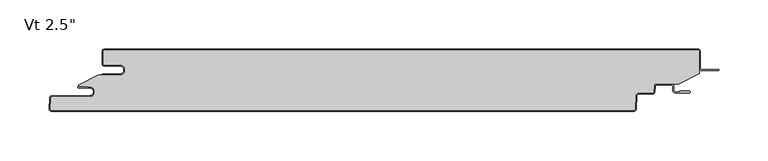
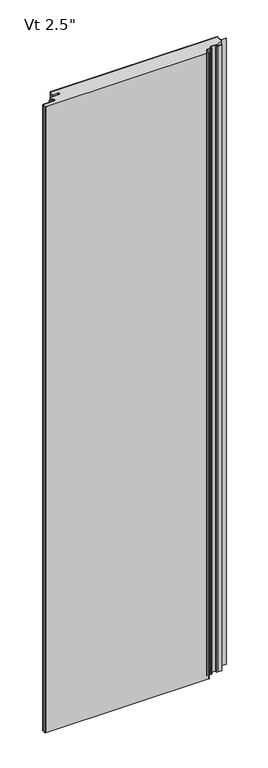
"""IFC4 building model written with IfcOpenShell, lengths in millimetres: plate geometry."""

from ifc_helpers import new_model, si_unit, point, frame, frame_2d, origin, origin_with_axes, place, context, project, spatial, polyline, circle_curve, ellipse_curve, trimmed, segment, composite_curve, outline, extrude, source, transform, mapped, element, save
from ifc_brep_helpers import plane_surface, cylinder_surface, revolved_surface, extruded_surface, advanced_brep


def plate_2abe45d6(model_context):
    return source(origin(), model_context, "Body", "SolidModel", [
        extrude(outline(composite_curve([segment(polyline([(-285.74375, -16.4625), (-301.61875, -16.4625)]), True, "CONTINUOUS"), segment(trimmed(circle_curve(frame_2d((-301.61875, -15.08125)), 1.38125), [point((-301.61875, -16.4625))], [point((-303.0, -15.08125))], False, "CARTESIAN"), True, "CONTINUOUS"), segment(polyline([(-303.0, -15.08125), (-303.0, -2.38125)]), True, "CONTINUOUS"), segment(trimmed(circle_curve(frame_2d((-301.61875, -2.38125)), 1.38125), [point((-303.0, -2.38125))], [point((-301.61875, -1.0))], False, "CARTESIAN"), True, "CONTINUOUS"), segment(polyline([(-301.61875, -1.0), (301.63125, -1.0)]), True, "CONTINUOUS"), segment(trimmed(circle_curve(frame_2d((301.63125, -2.38125)), 1.38125), [point((301.63125, -1.0))], [point((303.0125, -2.38125))], False, "CARTESIAN"), True, "CONTINUOUS"), segment(polyline([(303.0125, -2.38125), (303.0125, -24.9057308), (282.1955434, -35.5125), (259.7540783, -35.5125)]), True, "CONTINUOUS"), segment(trimmed(circle_curve(frame_2d((259.7540783, -38.1)), 2.5875), [point((259.7540783, -35.5125))], [point((257.1701244, -37.9645807))], True, "CARTESIAN"), True, "CONTINUOUS"), segment(polyline([(257.1701244, -37.9645807), (256.8680481, -43.728539)]), True, "CONTINUOUS"), segment(trimmed(circle_curve(frame_2d((255.4886911, -43.65625)), 1.38125), [point((256.8680481, -43.728539))], [point((255.4886911, -45.0375))], False, "CARTESIAN"), True, "CONTINUOUS"), segment(polyline([(255.4886911, -45.0375), (241.3323847, -45.0375)]), True, "CONTINUOUS"), segment(trimmed(circle_curve(frame_2d((241.3323847, -47.625)), 2.5875), [point((241.3323847, -45.0375))], [point((238.7484307, -47.4895807))], True, "CARTESIAN"), True, "CONTINUOUS"), segment(polyline([(238.7484307, -47.4895807), (238.0303677, -61.191039)]), True, "CONTINUOUS"), segment(trimmed(circle_curve(frame_2d((236.6510107, -61.11875)), 1.38125), [point((238.0303677, -61.191039))], [point((236.6510107, -62.5))], False, "CARTESIAN"), True, "CONTINUOUS"), segment(polyline([(236.6510107, -62.5), (-355.4799535, -62.5)]), True, "CONTINUOUS"), segment(trimmed(circle_curve(frame_2d((-355.4799535, -61.11875)), 1.38125), [point((-355.4799535, -62.5))], [point((-356.8593106, -61.046461))], False, "CARTESIAN"), True, "CONTINUOUS"), segment(polyline([(-356.8593106, -61.046461), (-356.2769291, -49.933961)]), True, "CONTINUOUS"), segment(trimmed(circle_curve(frame_2d((-354.8975721, -50.00625)), 1.38125), [point((-356.2769291, -49.933961))], [point((-354.8975721, -48.625))], False, "CARTESIAN"), True, "CONTINUOUS"), segment(polyline([(-354.8975721, -48.625), (-316.7142674, -48.625)]), True, "CONTINUOUS"), segment(trimmed(circle_curve(frame_2d((-316.7142674, -43.65625)), 4.96875), [point((-316.7142674, -48.625))], [point((-316.7142674, -38.6875))], True, "CARTESIAN"), True, "CONTINUOUS"), segment(polyline([(-316.7142674, -38.6875), (-318.3017674, -38.89375), (-318.3017674, -38.1), (-327.8125, -38.1), (-327.8125, -36.5326309), (-307.9260922, -26.4), (-285.74375, -26.4)]), True, "CONTINUOUS"), segment(trimmed(circle_curve(frame_2d((-285.74375, -21.43125)), 4.96875), [point((-285.74375, -26.4))], [point((-285.74375, -16.4625))], True, "CARTESIAN"), True, "CONTINUOUS")], self_intersect=False)), origin_with_axes(), (0.0, 0.0, 1.0), 2400.0),
        extrude(outline(composite_curve([segment(polyline([(-304.0, -25.4), (-285.74375, -25.4)]), True, "CONTINUOUS"), segment(trimmed(circle_curve(frame_2d((-285.74375, -21.43125)), 3.96875), [point((-285.74375, -25.4))], [point((-285.74375, -17.4625))], True, "CARTESIAN"), True, "CONTINUOUS"), segment(polyline([(-285.74375, -17.4625), (-301.61875, -17.4625)]), True, "CONTINUOUS"), segment(trimmed(circle_curve(frame_2d((-301.61875, -15.08125)), 2.38125), [point((-301.61875, -17.4625))], [point((-304.0, -15.08125))], False, "CARTESIAN"), True, "CONTINUOUS"), segment(polyline([(-304.0, -15.08125), (-304.0, -2.38125)]), True, "CONTINUOUS"), segment(trimmed(circle_curve(frame_2d((-301.61875, -2.38125)), 2.38125), [point((-304.0, -2.38125))], [point((-301.61875, 0.0))], False, "CARTESIAN"), True, "CONTINUOUS"), segment(polyline([(-301.61875, 0.0), (301.63125, 0.0)]), True, "CONTINUOUS"), segment(trimmed(circle_curve(frame_2d((301.63125, -2.38125)), 2.38125), [point((301.63125, 0.0))], [point((304.0125, -2.38125))], False, "CARTESIAN"), True, "CONTINUOUS"), segment(polyline([(304.0125, -2.38125), (304.0125, -19.446875)]), True, "CONTINUOUS"), segment(trimmed(circle_curve(frame_2d((305.6, -19.446875)), 1.5875), [point((304.0125, -19.446875))], [point((305.6, -21.034375))], True, "CARTESIAN"), True, "CONTINUOUS"), segment(polyline([(305.6, -21.034375), (323.0625, -21.034375), (323.0625, -22.034375), (305.6, -22.034375)]), True, "CONTINUOUS"), segment(trimmed(circle_curve(frame_2d((305.6, -19.446875)), 2.5875), [point((305.6, -22.034375))], [point((303.0125, -19.446875))], False, "CARTESIAN"), True, "CONTINUOUS"), segment(polyline([(303.0125, -19.446875), (303.0125, -2.38125)]), True, "CONTINUOUS"), segment(trimmed(circle_curve(frame_2d((301.63125, -2.38125)), 1.38125), [point((303.0125, -2.38125))], [point((301.63125, -1.0))], True, "CARTESIAN"), True, "CONTINUOUS"), segment(polyline([(301.63125, -1.0), (-301.61875, -1.0)]), True, "CONTINUOUS"), segment(trimmed(circle_curve(frame_2d((-301.61875, -2.38125)), 1.38125), [point((-301.61875, -1.0))], [point((-303.0, -2.38125))], True, "CARTESIAN"), True, "CONTINUOUS"), segment(polyline([(-303.0, -2.38125), (-303.0, -15.08125)]), True, "CONTINUOUS"), segment(trimmed(circle_curve(frame_2d((-301.61875, -15.08125)), 1.38125), [point((-303.0, -15.08125))], [point((-301.61875, -16.4625))], True, "CARTESIAN"), True, "CONTINUOUS"), segment(polyline([(-301.61875, -16.4625), (-285.74375, -16.4625)]), True, "CONTINUOUS"), segment(trimmed(circle_curve(frame_2d((-285.74375, -21.43125)), 4.96875), [point((-285.74375, -16.4625))], [point((-285.74375, -26.4))], False, "CARTESIAN"), True, "CONTINUOUS"), segment(polyline([(-285.74375, -26.4), (-304.0, -26.4), (-304.0, -25.4)]), True, "CONTINUOUS")], self_intersect=False)), origin_with_axes(), (0.0, 0.0, 1.0), 2400.0),
        advanced_brep(
        [(-328.0252049, -38.1, 2400.0), (-328.0252049, -39.6875, 2400.0), (-316.7142674, -39.6875, 2400.0), (-316.7142674, -47.625, 2400.0), (-354.8975721, -47.625, 2400.0), (-357.2755586, -49.881625, 2400.0), (-357.8579401, -60.994125, 2400.0), (-355.4799535, -63.5, 2400.0), (236.6510107, -63.5, 2400.0), (239.0289973, -61.243375, 2400.0), (239.7470603, -47.5419167, 2400.0), (241.3323847, -46.0375, 2400.0), (255.4886911, -46.0375, 2400.0), (257.8666776, -43.780875, 2400.0), (258.1687539, -38.0169167, 2400.0), (259.7540783, -36.5125, 2400.0), (274.6294826, -36.5125, 2400.0), (276.2169826, -38.1, 2400.0), (276.2169826, -42.2671875, 2400.0), (278.5982326, -44.6484375, 2400.0), (293.0898532, -44.6484375, 2400.0), (293.0898532, -42.8546875, 2400.0), (283.3607326, -42.8546875, 2400.0), (283.3607326, -43.6484375, 2400.0), (278.5982326, -43.6484375, 2400.0), (277.2169826, -42.2671875, 2400.0), (277.2169826, -38.1, 2400.0), (274.6294826, -35.5125, 2400.0), (259.7540783, -35.5125, 2400.0), (257.1701244, -37.9645807, 2400.0), (256.8680481, -43.728539, 2400.0), (255.4886911, -45.0375, 2400.0), (241.3323847, -45.0375, 2400.0), (238.7484307, -47.4895807, 2400.0), (238.0303677, -61.191039, 2400.0), (236.6510107, -62.5, 2400.0), (-355.4799535, -62.5, 2400.0), (-356.8593106, -61.046461, 2400.0), (-356.2769291, -49.933961, 2400.0), (-354.8975721, -48.625, 2400.0), (-316.7142674, -48.625, 2400.0), (-316.7142674, -38.6875, 2400.0), (-318.3017674, -38.89375, 2400.0), (-318.3017674, -38.1, 2400.0), (-328.0252049, -38.1, 0.0), (-318.3017674, -38.1, 0.0), (-318.3017674, -38.89375, 0.0), (-316.7142674, -38.6875, 0.0), (-316.7142674, -48.625, 0.0), (-354.8975721, -48.625, 0.0), (-356.2769291, -49.933961, 0.0), (-356.8593106, -61.046461, 0.0), (-355.4799535, -62.5, 0.0), (236.6510107, -62.5, 0.0), (238.0303677, -61.191039, 0.0), (238.7484307, -47.4895807, 0.0), (241.3323847, -45.0375, 0.0), (255.4886911, -45.0375, 0.0), (256.8680481, -43.728539, 0.0), (257.1701244, -37.9645807, 0.0), (259.7540783, -35.5125, 0.0), (274.6294826, -35.5125, 0.0), (277.2169826, -38.1, 0.0), (277.2169826, -42.2671875, 0.0), (278.5982326, -43.6484375, 0.0), (283.3607326, -43.6484375, 0.0), (283.3607326, -42.8546875, 0.0), (293.0898532, -42.8546875, 0.0), (293.0898532, -44.6484375, 0.0), (278.5982326, -44.6484375, 0.0), (276.2169826, -42.2671875, 0.0), (276.2169826, -38.1, 0.0), (274.6294826, -36.5125, 0.0), (259.7540783, -36.5125, 0.0), (258.1687539, -38.0169167, 0.0), (257.8666776, -43.780875, 0.0), (255.4886911, -46.0375, 0.0), (241.3323847, -46.0375, 0.0), (239.7470603, -47.5419167, 0.0), (239.0289973, -61.243375, 0.0), (236.6510107, -63.5, 0.0), (-355.4799535, -63.5, 0.0), (-357.8579401, -60.994125, 0.0), (-357.2755586, -49.881625, 0.0), (-354.8975721, -47.625, 0.0), (-316.7142674, -47.625, 0.0), (-316.7142674, -39.6875, 0.0), (-328.0252049, -39.6875, 0.0)],
        [
            (0, 1, circle_curve(frame((-328.0252049, -38.89375, 2400.0), z_axis=(0.0, 0.0, 1.0), x_axis=(1.0, 0.0, 0.0)), 0.79375)),
            (1, 2),
            (2, 3, circle_curve(frame((-316.7142674, -43.65625, 2400.0), z_axis=(0.0, 0.0, -1.0), x_axis=(1.0, 0.0, 0.0)), 3.96875)),
            (3, 4),
            (4, 5, circle_curve(frame((-354.8975721, -50.00625, 2400.0), z_axis=(0.0, 0.0, 1.0), x_axis=(1.0, 0.0, 0.0)), 2.38125)),
            (5, 6),
            (6, 7, circle_curve(frame((-355.4799535, -61.11875, 2400.0), z_axis=(0.0, 0.0, 1.0), x_axis=(1.0, 0.0, 0.0)), 2.38125)),
            (7, 8),
            (8, 9, circle_curve(frame((236.6510107, -61.11875, 2400.0), z_axis=(0.0, 0.0, 1.0), x_axis=(1.0, 0.0, 0.0)), 2.38125)),
            (9, 10),
            (10, 11, circle_curve(frame((241.3323847, -47.625, 2400.0), z_axis=(0.0, 0.0, -1.0), x_axis=(1.0, 0.0, 0.0)), 1.5875)),
            (11, 12),
            (12, 13, circle_curve(frame((255.4886911, -43.65625, 2400.0), z_axis=(0.0, 0.0, 1.0), x_axis=(1.0, 0.0, 0.0)), 2.38125)),
            (13, 14),
            (14, 15, circle_curve(frame((259.7540783, -38.1, 2400.0), z_axis=(0.0, 0.0, -1.0), x_axis=(1.0, 0.0, 0.0)), 1.5875)),
            (15, 16),
            (16, 17, circle_curve(frame((274.6294826, -38.1, 2400.0), z_axis=(0.0, 0.0, -1.0), x_axis=(1.0, 0.0, 0.0)), 1.5875)),
            (17, 18),
            (18, 19, circle_curve(frame((278.5982326, -42.2671875, 2400.0), z_axis=(0.0, 0.0, 1.0), x_axis=(1.0, 0.0, 0.0)), 2.38125)),
            (19, 20),
            (20, 21, ellipse_curve(frame((293.0898532, -43.7515625, 2400.0), z_axis=(0.0, 0.0, 1.0), x_axis=(0.0, 1.0, 0.0)), 0.896875, 0.7852275)),
            (21, 22),
            (22, 23),
            (23, 24),
            (24, 25, circle_curve(frame((278.5982326, -42.2671875, 2400.0), z_axis=(0.0, 0.0, -1.0), x_axis=(1.0, 0.0, 0.0)), 1.38125)),
            (25, 26),
            (26, 27, circle_curve(frame((274.6294826, -38.1, 2400.0), z_axis=(0.0, 0.0, 1.0), x_axis=(1.0, 0.0, 0.0)), 2.5875)),
            (27, 28),
            (28, 29, circle_curve(frame((259.7540783, -38.1, 2400.0), z_axis=(0.0, 0.0, 1.0), x_axis=(1.0, 0.0, 0.0)), 2.5875)),
            (29, 30),
            (30, 31, circle_curve(frame((255.4886911, -43.65625, 2400.0), z_axis=(0.0, 0.0, -1.0), x_axis=(1.0, 0.0, 0.0)), 1.38125)),
            (31, 32),
            (32, 33, circle_curve(frame((241.3323847, -47.625, 2400.0), z_axis=(0.0, 0.0, 1.0), x_axis=(1.0, 0.0, 0.0)), 2.5875)),
            (33, 34),
            (34, 35, circle_curve(frame((236.6510107, -61.11875, 2400.0), z_axis=(0.0, 0.0, -1.0), x_axis=(1.0, 0.0, 0.0)), 1.38125)),
            (35, 36),
            (36, 37, circle_curve(frame((-355.4799535, -61.11875, 2400.0), z_axis=(0.0, 0.0, -1.0), x_axis=(1.0, 0.0, 0.0)), 1.38125)),
            (37, 38),
            (38, 39, circle_curve(frame((-354.8975721, -50.00625, 2400.0), z_axis=(0.0, 0.0, -1.0), x_axis=(1.0, 0.0, 0.0)), 1.38125)),
            (39, 40),
            (40, 41, circle_curve(frame((-316.7142674, -43.65625, 2400.0), z_axis=(0.0, 0.0, 1.0), x_axis=(1.0, 0.0, 0.0)), 4.96875)),
            (41, 42),
            (42, 43),
            (43, 0),
            (44, 45),
            (45, 46),
            (46, 47),
            (47, 48, circle_curve(frame((-316.7142674, -43.65625, 0.0), z_axis=(0.0, 0.0, -1.0), x_axis=(1.0, 0.0, 0.0)), 4.96875)),
            (48, 49),
            (49, 50, circle_curve(frame((-354.8975721, -50.00625, 0.0), z_axis=(0.0, 0.0, 1.0), x_axis=(1.0, 0.0, 0.0)), 1.38125)),
            (50, 51),
            (51, 52, circle_curve(frame((-355.4799535, -61.11875, 0.0), z_axis=(0.0, 0.0, 1.0), x_axis=(1.0, 0.0, 0.0)), 1.38125)),
            (52, 53),
            (53, 54, circle_curve(frame((236.6510107, -61.11875, 0.0), z_axis=(0.0, 0.0, 1.0), x_axis=(1.0, 0.0, 0.0)), 1.38125)),
            (54, 55),
            (55, 56, circle_curve(frame((241.3323847, -47.625, 0.0), z_axis=(0.0, 0.0, -1.0), x_axis=(1.0, 0.0, 0.0)), 2.5875)),
            (56, 57),
            (57, 58, circle_curve(frame((255.4886911, -43.65625, 0.0), z_axis=(0.0, 0.0, 1.0), x_axis=(1.0, 0.0, 0.0)), 1.38125)),
            (58, 59),
            (59, 60, circle_curve(frame((259.7540783, -38.1, 0.0), z_axis=(0.0, 0.0, -1.0), x_axis=(1.0, 0.0, 0.0)), 2.5875)),
            (60, 61),
            (61, 62, circle_curve(frame((274.6294826, -38.1, 0.0), z_axis=(0.0, 0.0, -1.0), x_axis=(1.0, 0.0, 0.0)), 2.5875)),
            (62, 63),
            (63, 64, circle_curve(frame((278.5982326, -42.2671875, 0.0), z_axis=(0.0, 0.0, 1.0), x_axis=(1.0, 0.0, 0.0)), 1.38125)),
            (64, 65),
            (65, 66),
            (66, 67),
            (67, 68, ellipse_curve(frame((293.0898532, -43.7515625, 0.0), z_axis=(0.0, 0.0, -1.0), x_axis=(0.0, 1.0, 0.0)), 0.896875, 0.7852275)),
            (68, 69),
            (69, 70, circle_curve(frame((278.5982326, -42.2671875, 0.0), z_axis=(0.0, 0.0, -1.0), x_axis=(1.0, 0.0, 0.0)), 2.38125)),
            (70, 71),
            (71, 72, circle_curve(frame((274.6294826, -38.1, 0.0), z_axis=(0.0, 0.0, 1.0), x_axis=(1.0, 0.0, 0.0)), 1.5875)),
            (72, 73),
            (73, 74, circle_curve(frame((259.7540783, -38.1, 0.0), z_axis=(0.0, 0.0, 1.0), x_axis=(1.0, 0.0, 0.0)), 1.5875)),
            (74, 75),
            (75, 76, circle_curve(frame((255.4886911, -43.65625, 0.0), z_axis=(0.0, 0.0, -1.0), x_axis=(1.0, 0.0, 0.0)), 2.38125)),
            (76, 77),
            (77, 78, circle_curve(frame((241.3323847, -47.625, 0.0), z_axis=(0.0, 0.0, 1.0), x_axis=(1.0, 0.0, 0.0)), 1.5875)),
            (78, 79),
            (79, 80, circle_curve(frame((236.6510107, -61.11875, 0.0), z_axis=(0.0, 0.0, -1.0), x_axis=(1.0, 0.0, 0.0)), 2.38125)),
            (80, 81),
            (81, 82, circle_curve(frame((-355.4799535, -61.11875, 0.0), z_axis=(0.0, 0.0, -1.0), x_axis=(1.0, 0.0, 0.0)), 2.38125)),
            (82, 83),
            (83, 84, circle_curve(frame((-354.8975721, -50.00625, 0.0), z_axis=(0.0, 0.0, -1.0), x_axis=(1.0, 0.0, 0.0)), 2.38125)),
            (84, 85),
            (85, 86, circle_curve(frame((-316.7142674, -43.65625, 0.0), z_axis=(0.0, 0.0, 1.0), x_axis=(1.0, 0.0, 0.0)), 3.96875)),
            (86, 87),
            (87, 44, circle_curve(frame((-328.0252049, -38.89375, 0.0), z_axis=(0.0, 0.0, -1.0), x_axis=(1.0, 0.0, 0.0)), 0.79375)),
            (43, 45),
            (44, 0),
            (87, 1),
            (86, 2),
            (85, 3),
            (84, 4),
            (83, 5),
            (82, 6),
            (81, 7),
            (80, 8),
            (79, 9),
            (78, 10),
            (77, 11),
            (76, 12),
            (75, 13),
            (74, 14),
            (73, 15),
            (38, 50),
            (49, 39),
            (37, 51),
            (36, 52),
            (35, 53),
            (34, 54),
            (33, 55),
            (32, 56),
            (31, 57),
            (30, 58),
            (29, 59),
            (28, 60),
            (23, 65),
            (64, 24),
            (63, 25),
            (62, 26),
            (72, 16),
            (71, 17),
            (70, 18),
            (69, 19),
            (68, 20),
            (27, 61),
            (48, 40),
            (47, 41),
            (42, 46),
            (22, 66),
            (21, 67),
        ],
        [
            plane_surface(frame((0.00625, -63.5, 2400.0), z_axis=(0.0, 0.0, 1.0), x_axis=(0.0, -1.0, 0.0))),
            plane_surface(frame((0.00625, -63.5, 0.0), z_axis=(0.0, 0.0, -1.0), x_axis=(0.0, -1.0, 0.0))),
            plane_surface(frame((-328.0252049, -38.1, 2400.0), z_axis=(0.0, 1.0, 0.0), x_axis=(0.0, 0.0, -1.0))),
            cylinder_surface(frame((-328.0252049, -38.89375, 2400.0), z_axis=(0.0, 0.0, 1.0), x_axis=(1.0, 0.0, 0.0)), 0.79375),
            plane_surface(frame((-316.7142674, -39.6875, 2400.0), z_axis=(0.0, -1.0, 0.0), x_axis=(0.0, 0.0, -1.0))),
            revolved_surface(polyline([(-312.7455174, -43.65625, 0.0), (-312.7455174, -43.65625, 2400.0)]), (-316.7142674, -43.65625, 2400.0), (0.0, 0.0, -1.0)),
            plane_surface(frame((-354.8975721, -47.625, 2400.0), z_axis=(0.0, 1.0, 0.0), x_axis=(0.0, 0.0, -1.0))),
            cylinder_surface(frame((-354.8975721, -50.00625, 2400.0), z_axis=(0.0, 0.0, 1.0), x_axis=(1.0, 0.0, 0.0)), 2.38125),
            plane_surface(frame((-357.8579401, -60.994125, 2400.0), z_axis=(-0.9986295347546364, 0.05233595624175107, 0.0), x_axis=(0.0, 0.0, -1.0))),
            cylinder_surface(frame((-355.4799535, -61.11875, 2400.0), z_axis=(0.0, 0.0, 1.0), x_axis=(1.0, 0.0, 0.0)), 2.38125),
            plane_surface(frame((236.6510107, -63.5, 2400.0), z_axis=(0.0, -1.0, 0.0), x_axis=(0.0, 0.0, -1.0))),
            cylinder_surface(frame((236.6510107, -61.11875, 2400.0), z_axis=(0.0, 0.0, 1.0), x_axis=(1.0, 0.0, 0.0)), 2.38125),
            plane_surface(frame((239.7470603, -47.5419167, 2400.0), z_axis=(0.9986295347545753, -0.05233595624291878, 0.0), x_axis=(0.0, 0.0, -1.0))),
            revolved_surface(polyline([(242.9198847, -47.625, 0.0), (242.9198847, -47.625, 2400.0)]), (241.3323847, -47.625, 2400.0), (0.0, 0.0, -1.0)),
            plane_surface(frame((255.4886911, -46.0375, 2400.0), z_axis=(0.0, -1.0, 0.0), x_axis=(0.0, 0.0, -1.0))),
            cylinder_surface(frame((255.4886911, -43.65625, 2400.0), z_axis=(0.0, 0.0, 1.0), x_axis=(1.0, 0.0, 0.0)), 2.38125),
            plane_surface(frame((258.1687539, -38.0169167, 2400.0), z_axis=(0.9986295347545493, -0.052335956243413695, 0.0), x_axis=(0.0, 0.0, -1.0))),
            revolved_surface(polyline([(261.3415783, -38.1, 0.0), (261.3415783, -38.1, 2400.0)]), (259.7540783, -38.1, 2400.0), (0.0, 0.0, -1.0)),
            revolved_surface(polyline([(-353.51632209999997, -50.00625, 0.0), (-353.51632209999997, -50.00625, 2400.0)]), (-354.8975721, -50.00625, 2400.0), (0.0, 0.0, -1.0)),
            plane_surface(frame((-356.2769291, -49.933961, 2400.0), z_axis=(0.9986295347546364, -0.05233595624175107, 0.0), x_axis=(0.0, 0.0, -1.0))),
            revolved_surface(polyline([(-354.0987035, -61.11875, 0.0), (-354.0987035, -61.11875, 2400.0)]), (-355.4799535, -61.11875, 2400.0), (0.0, 0.0, -1.0)),
            plane_surface(frame((-355.4799535, -62.5, 2400.0), z_axis=(0.0, 1.0, 0.0), x_axis=(0.0, 0.0, -1.0))),
            revolved_surface(polyline([(238.0322607, -61.11875, 0.0), (238.0322607, -61.11875, 2400.0)]), (236.6510107, -61.11875, 2400.0), (0.0, 0.0, -1.0)),
            plane_surface(frame((238.0303677, -61.191039, 2400.0), z_axis=(-0.9986295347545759, 0.052335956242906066, 0.0), x_axis=(0.0, 0.0, -1.0))),
            cylinder_surface(frame((241.3323847, -47.625, 2400.0), z_axis=(0.0, 0.0, 1.0), x_axis=(1.0, 0.0, 0.0)), 2.5875),
            plane_surface(frame((241.3323847, -45.0375, 2400.0), z_axis=(0.0, 1.0, 0.0), x_axis=(0.0, 0.0, -1.0))),
            revolved_surface(polyline([(256.8699411, -43.65625, 0.0), (256.8699411, -43.65625, 2400.0)]), (255.4886911, -43.65625, 2400.0), (0.0, 0.0, -1.0)),
            plane_surface(frame((256.8680481, -43.728539, 2400.0), z_axis=(-0.998629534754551, 0.05233595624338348, 0.0), x_axis=(0.0, 0.0, -1.0))),
            cylinder_surface(frame((259.7540783, -38.1, 2400.0), z_axis=(0.0, 0.0, 1.0), x_axis=(1.0, 0.0, 0.0)), 2.5875),
            plane_surface(frame((278.5982326, -43.6484375, 2400.0), z_axis=(0.0, 1.0, 0.0), x_axis=(0.0, 0.0, -1.0))),
            revolved_surface(polyline([(279.97948260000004, -42.2671875, 0.0), (279.97948260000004, -42.2671875, 2400.0)]), (278.5982326, -42.2671875, 2400.0), (0.0, 0.0, -1.0)),
            plane_surface(frame((277.2169826, -38.1, 2400.0), z_axis=(1.0, 0.0, 0.0), x_axis=(0.0, 0.0, -1.0))),
            plane_surface(frame((274.6294826, -36.5125, 2400.0), z_axis=(0.0, -1.0, 0.0), x_axis=(0.0, 0.0, -1.0))),
            revolved_surface(polyline([(276.2169826, -38.1, 0.0), (276.2169826, -38.1, 2400.0)]), (274.6294826, -38.1, 2400.0), (0.0, 0.0, -1.0)),
            plane_surface(frame((276.2169826, -42.2671875, 2400.0), z_axis=(-1.0, 0.0, 0.0), x_axis=(0.0, 0.0, -1.0))),
            cylinder_surface(frame((278.5982326, -42.2671875, 2400.0), z_axis=(0.0, 0.0, 1.0), x_axis=(1.0, 0.0, 0.0)), 2.38125),
            plane_surface(frame((293.0898532, -44.6484375, 2400.0), z_axis=(0.0, -1.0, 0.0), x_axis=(0.0, 0.0, -1.0))),
            plane_surface(frame((259.7540783, -35.5125, 2400.0), z_axis=(0.0, 1.0, 0.0), x_axis=(0.0, 0.0, -1.0))),
            cylinder_surface(frame((274.6294826, -38.1, 2400.0), z_axis=(0.0, 0.0, 1.0), x_axis=(1.0, 0.0, 0.0)), 2.5875),
            plane_surface(frame((-316.7142674, -48.625, 2400.0), z_axis=(0.0, -1.0, 0.0), x_axis=(0.0, 0.0, -1.0))),
            cylinder_surface(frame((-316.7142674, -43.65625, 2400.0), z_axis=(0.0, 0.0, 1.0), x_axis=(1.0, 0.0, 0.0)), 4.96875),
            plane_surface(frame((-318.3017674, -38.1, 2400.0), z_axis=(1.0, 0.0, 0.0), x_axis=(0.0, 0.0, -1.0))),
            plane_surface(frame((-318.3017674, -38.89375, 2400.0), z_axis=(-0.12883844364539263, 0.9916655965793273, 0.0), x_axis=(0.0, 0.0, -1.0))),
            plane_surface(frame((283.3607326, -43.6484375, 2400.0), z_axis=(-1.0, 0.0, 0.0), x_axis=(0.0, 0.0, -1.0))),
            plane_surface(frame((283.3607326, -42.8546875, 2400.0), z_axis=(0.0, 1.0, 0.0), x_axis=(0.0, 0.0, -1.0))),
            extruded_surface(trimmed(ellipse_curve(frame((293.0898532, -43.7515625, 2400.0), z_axis=(0.0, 0.0, -1.0), x_axis=(0.0, 1.0, 0.0)), 0.896875, 0.7852275), [point((293.0898532, -42.8546875, 2400.0))], [point((293.0898532, -44.6484375, 2400.0))], True, "CARTESIAN"), (0.0, 0.0, -2400.0), 2400.0),
        ],
        [
            (0, [[1, 2, 3, 4, 5, 6, 7, 8, 9, 10, 11, 12, 13, 14, 15, 16, 17, 18, 19, 20, 21, 22, 23, 24, 25, 26, 27, 28, 29, 30, 31, 32, 33, 34, 35, 36, 37, 38, 39, 40, 41, 42, 43, 44]]),
            (1, [[45, 46, 47, 48, 49, 50, 51, 52, 53, 54, 55, 56, 57, 58, 59, 60, 61, 62, 63, 64, 65, 66, 67, 68, 69, 70, 71, 72, 73, 74, 75, 76, 77, 78, 79, 80, 81, 82, 83, 84, 85, 86, 87, 88]]),
            (2, [[89, -45, 90, -44]]),
            (3, [[-90, -88, 91, -1]]),
            (4, [[-91, -87, 92, -2]]),
            (5, [[-92, -86, 93, -3]]),
            (6, [[-93, -85, 94, -4]]),
            (7, [[-94, -84, 95, -5]]),
            (8, [[-95, -83, 96, -6]]),
            (9, [[-96, -82, 97, -7]]),
            (10, [[-97, -81, 98, -8]]),
            (11, [[-98, -80, 99, -9]]),
            (12, [[-99, -79, 100, -10]]),
            (13, [[-100, -78, 101, -11]]),
            (14, [[-101, -77, 102, -12]]),
            (15, [[-102, -76, 103, -13]]),
            (16, [[-103, -75, 104, -14]]),
            (17, [[-104, -74, 105, -15]]),
            (18, [[106, -50, 107, -39]]),
            (19, [[108, -51, -106, -38]]),
            (20, [[109, -52, -108, -37]]),
            (21, [[110, -53, -109, -36]]),
            (22, [[111, -54, -110, -35]]),
            (23, [[112, -55, -111, -34]]),
            (24, [[113, -56, -112, -33]]),
            (25, [[114, -57, -113, -32]]),
            (26, [[115, -58, -114, -31]]),
            (27, [[116, -59, -115, -30]]),
            (28, [[117, -60, -116, -29]]),
            (29, [[118, -65, 119, -24]]),
            (30, [[-119, -64, 120, -25]]),
            (31, [[-120, -63, 121, -26]]),
            (32, [[-105, -73, 122, -16]]),
            (33, [[-122, -72, 123, -17]]),
            (34, [[-123, -71, 124, -18]]),
            (35, [[-124, -70, 125, -19]]),
            (36, [[-125, -69, 126, -20]]),
            (37, [[127, -61, -117, -28]]),
            (38, [[-121, -62, -127, -27]]),
            (39, [[-107, -49, 128, -40]]),
            (40, [[-128, -48, 129, -41]]),
            (41, [[130, -46, -89, -43]]),
            (42, [[-129, -47, -130, -42]]),
            (43, [[131, -66, -118, -23]]),
            (44, [[132, -67, -131, -22]]),
            (45, [[-126, -68, -132, -21]]),
        ],
    ),
    ])


if __name__ == "__main__":
    model = new_model("IFC4")
    model_context = context("Model", 3, world=origin())
    ifc_project = project(units=[si_unit("LENGTHUNIT", "METRE", prefix="MILLI")], contexts=[model_context])
    site = spatial("IfcSite", under=ifc_project)
    building = spatial("IfcBuilding", under=site)
    placement = place(None, origin())
    plate_shape = plate_2abe45d6(model_context)
    element("IfcPlate", 1, ObjectType="KIP-24-DWHR-R19-CP-Vt-F : Vt 2.5\"", at=placement, inside=building, context=model_context, shape_type="MappedRepresentation", body=[
        mapped(plate_shape, transform((0.0, 0.0, 0.0), x_axis=(1.0, 0.0, 0.0), y_axis=(0.0, 1.0, 0.0), z_axis=(0.0, 0.0, 1.0))),
    ])
    save(model, "model.ifc")
